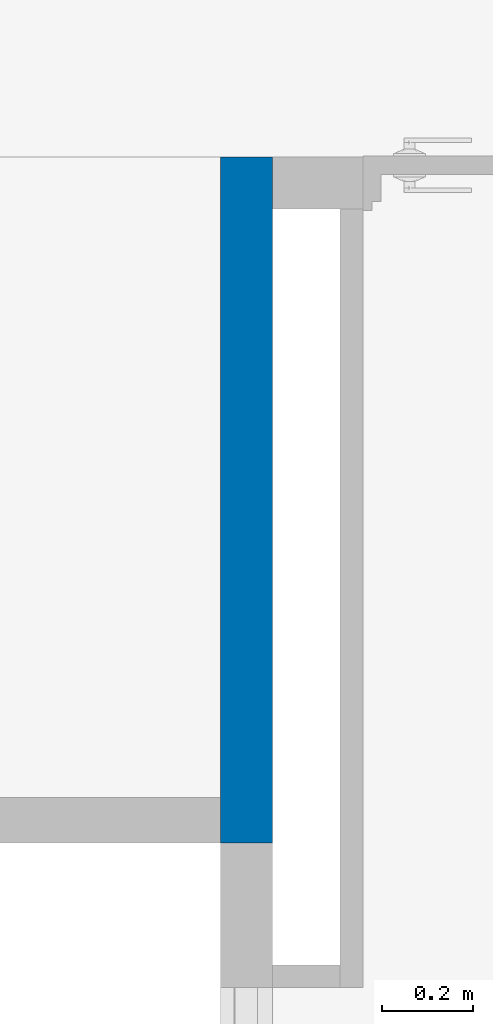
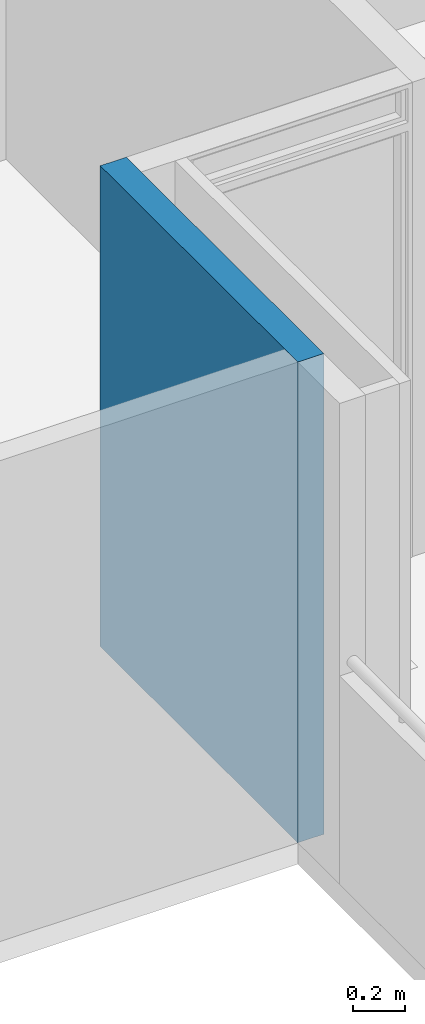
# One storey, part 20 of 48: 1 wall.
"""IFC4 building model written with IfcOpenShell, lengths in metres."""

from ifc_helpers import new_model, entity, si_unit, converted_unit, derived_unit, direction, frame, origin, place, context, subcontext, project, spatial, indexed_curve, outline, extrude, material, type_object, element, save


model = new_model("IFC4")

# Units and contexts
model_context = context("Model", 3, precision=1e-05, world=origin(), true_north=direction((6.123031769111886e-17, 1.0)))
body_context = subcontext(model_context, "Body", "Model", "MODEL_VIEW")
ifc_project = project(units=[si_unit("LENGTHUNIT", "METRE"), si_unit("AREAUNIT", "SQUARE_METRE"), si_unit("VOLUMEUNIT", "CUBIC_METRE"), converted_unit("PLANEANGLEUNIT", "DEGREE", entity("IfcRatioMeasure", 0.017453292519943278), si_unit("PLANEANGLEUNIT", "RADIAN"), dimensions=[0, 0, 0, 0, 0, 0, 0]), si_unit("MASSUNIT", "GRAM", prefix="KILO"), derived_unit("MASSDENSITYUNIT", [(si_unit("MASSUNIT", "GRAM", prefix="KILO"), 1), (si_unit("LENGTHUNIT", "METRE"), -3)]), derived_unit("IONCONCENTRATIONUNIT", [(si_unit("MASSUNIT", "GRAM", prefix="KILO"), 1), (si_unit("LENGTHUNIT", "METRE"), -3)]), derived_unit("MOMENTOFINERTIAUNIT", [(si_unit("LENGTHUNIT", "METRE"), 4)]), si_unit("TIMEUNIT", "SECOND"), si_unit("FREQUENCYUNIT", "HERTZ"), si_unit("THERMODYNAMICTEMPERATUREUNIT", "DEGREE_CELSIUS"), derived_unit("THERMALTRANSMITTANCEUNIT", [(si_unit("MASSUNIT", "GRAM", prefix="KILO"), 1), (si_unit("THERMODYNAMICTEMPERATUREUNIT", "KELVIN"), -1), (si_unit("TIMEUNIT", "SECOND"), -3)]), derived_unit("THERMALCONDUCTANCEUNIT", [(si_unit("MASSUNIT", "GRAM", prefix="KILO"), 1), (si_unit("THERMODYNAMICTEMPERATUREUNIT", "KELVIN"), -1), (si_unit("TIMEUNIT", "SECOND"), -3), (si_unit("LENGTHUNIT", "METRE"), 1)]), derived_unit("VOLUMETRICFLOWRATEUNIT", [(si_unit("LENGTHUNIT", "METRE"), 3), (si_unit("TIMEUNIT", "SECOND"), -1)]), derived_unit("MASSFLOWRATEUNIT", [(si_unit("MASSUNIT", "GRAM", prefix="KILO"), 1), (si_unit("TIMEUNIT", "SECOND"), -1)]), derived_unit("ROTATIONALFREQUENCYUNIT", [(si_unit("TIMEUNIT", "SECOND"), -1)]), si_unit("ELECTRICCURRENTUNIT", "AMPERE"), si_unit("ELECTRICVOLTAGEUNIT", "VOLT"), si_unit("POWERUNIT", "WATT"), si_unit("FORCEUNIT", "NEWTON", prefix="KILO"), si_unit("ILLUMINANCEUNIT", "LUX"), si_unit("LUMINOUSFLUXUNIT", "LUMEN"), si_unit("LUMINOUSINTENSITYUNIT", "CANDELA"), derived_unit("USERDEFINED", [(si_unit("MASSUNIT", "GRAM", prefix="KILO"), -1), (si_unit("LENGTHUNIT", "METRE"), -2), (si_unit("TIMEUNIT", "SECOND"), 3), (si_unit("LUMINOUSFLUXUNIT", "LUMEN"), 1)]), derived_unit("USERDEFINED", [(si_unit("MASSUNIT", "GRAM", prefix="KILO"), 1), (si_unit("TIMEUNIT", "SECOND"), -3), (si_unit("LENGTHUNIT", "METRE"), 3), (si_unit("ELECTRICCURRENTUNIT", "AMPERE"), -2)]), derived_unit("SOUNDPOWERUNIT", [(si_unit("MASSUNIT", "GRAM", prefix="KILO"), 1), (si_unit("TIMEUNIT", "SECOND"), -3), (si_unit("LENGTHUNIT", "METRE"), 2)]), derived_unit("SOUNDPRESSUREUNIT", [(si_unit("MASSUNIT", "GRAM", prefix="KILO"), 1), (si_unit("LENGTHUNIT", "METRE"), -1), (si_unit("TIMEUNIT", "SECOND"), -2)]), derived_unit("LINEARVELOCITYUNIT", [(si_unit("LENGTHUNIT", "METRE"), 1), (si_unit("TIMEUNIT", "SECOND"), -1)]), si_unit("PRESSUREUNIT", "PASCAL"), derived_unit("USERDEFINED", [(si_unit("MASSUNIT", "GRAM", prefix="KILO"), 1), (si_unit("LENGTHUNIT", "METRE"), -2), (si_unit("TIMEUNIT", "SECOND"), -2)]), derived_unit("LINEARFORCEUNIT", [(si_unit("MASSUNIT", "GRAM", prefix="KILO"), 1), (si_unit("TIMEUNIT", "SECOND"), -2)]), derived_unit("PLANARFORCEUNIT", [(si_unit("MASSUNIT", "GRAM", prefix="KILO"), 1), (si_unit("LENGTHUNIT", "METRE"), -1), (si_unit("TIMEUNIT", "SECOND"), -2)]), derived_unit("SPECIFICHEATCAPACITYUNIT", [(si_unit("THERMODYNAMICTEMPERATUREUNIT", "KELVIN"), -1), (si_unit("LENGTHUNIT", "METRE"), 2), (si_unit("TIMEUNIT", "SECOND"), -2)]), derived_unit("HEATINGVALUEUNIT", [(si_unit("LENGTHUNIT", "METRE"), 2), (si_unit("TIMEUNIT", "SECOND"), -2)]), derived_unit("VAPORPERMEABILITYUNIT", [(si_unit("LENGTHUNIT", "METRE"), -1), (si_unit("TIMEUNIT", "SECOND"), 1)]), derived_unit("DYNAMICVISCOSITYUNIT", [(si_unit("MASSUNIT", "GRAM", prefix="KILO"), 1), (si_unit("TIMEUNIT", "SECOND"), -1), (si_unit("LENGTHUNIT", "METRE"), -1)]), derived_unit("THERMALEXPANSIONCOEFFICIENTUNIT", [(si_unit("THERMODYNAMICTEMPERATUREUNIT", "KELVIN"), -1)]), derived_unit("MODULUSOFELASTICITYUNIT", [(si_unit("MASSUNIT", "GRAM", prefix="KILO"), 1), (si_unit("LENGTHUNIT", "METRE"), -1), (si_unit("TIMEUNIT", "SECOND"), -2)]), derived_unit("ISOTHERMALMOISTURECAPACITYUNIT", [(si_unit("LENGTHUNIT", "METRE"), 3), (si_unit("MASSUNIT", "GRAM", prefix="KILO"), -1)]), derived_unit("MOISTUREDIFFUSIVITYUNIT", [(si_unit("TIMEUNIT", "SECOND"), -1), (si_unit("LENGTHUNIT", "METRE"), 2)])], contexts=[model_context])

# Site, building, storey
site_placement = place(None, origin())
site = spatial("IfcSite", under=ifc_project, at=site_placement, Name="Default", CompositionType="ELEMENT")
building_placement = place(site_placement, origin())
building = spatial("IfcBuilding", under=site, at=building_placement, CompositionType="ELEMENT")
storey_placement = place(building_placement, frame((0.0, 0.0, 4.700000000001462)))
storey = spatial("IfcBuildingStorey", under=building, at=storey_placement, Name="Nivel 3", CompositionType="ELEMENT", Elevation=4.700000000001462)

# Wall
ifc_material = material(Name="Ladrillo claro (Aire)", Category="Materials")
wall_type = type_object("IfcWallType", Name="Basic Wall:B2010 - 0.115m - Muro interior en mampostería - Ladrillo", PredefinedType="STANDARD")
wall_placement = place(storey_placement, frame((8.005000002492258, -5.225000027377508, 0.0), z_axis=(0.0, 0.0, 1.0), x_axis=(0.0, 1.0, 0.0)))
element("IfcWall", 1, at=wall_placement, inside=storey, type_object=wall_type, material=ifc_material, Name="Basic Wall:B2010 - 0.115m - Muro interior en mampostería - Ladrillo", ObjectType="Basic Wall:B2010 - 0.115m - Muro interior en mampostería - Ladrillo", PredefinedType="NOTDEFINED", context=body_context, shape_type="SweptSolid", body=[
    extrude(outline(indexed_curve([(1.5150000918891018, 0.05749999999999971), (9.033989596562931e-17, 0.057499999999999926), (-9.033989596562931e-17, -0.057499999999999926), (1.5150000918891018, -0.057500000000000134), (1.5150000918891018, 0.05749999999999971)], self_intersect=False)), origin(), (0.0, 0.0, 1.0), 2.250000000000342),
])

save(model, "model.ifc")
